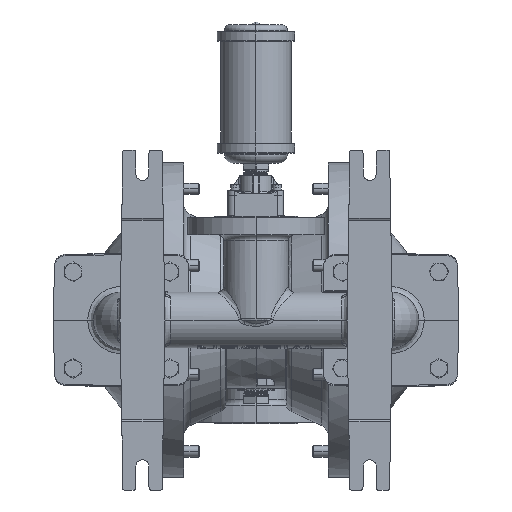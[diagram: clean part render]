
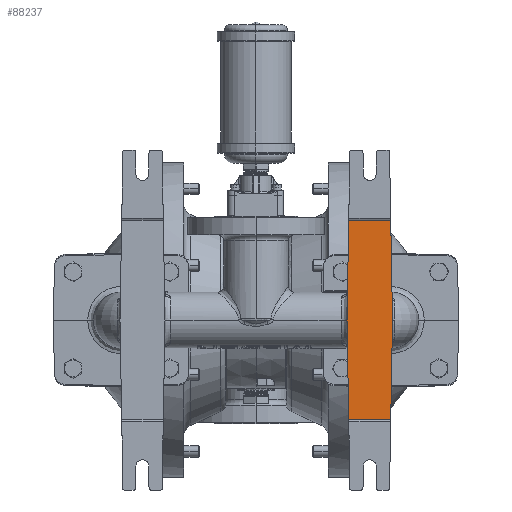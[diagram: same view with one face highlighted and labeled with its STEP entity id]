
A CAD part, front view. The second image highlights one B-rep face of the part: STEP entity #88237.
In plain terms, the highlighted planar face has unit normal (0, -1, 0).
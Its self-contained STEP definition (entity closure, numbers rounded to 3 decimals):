
#3984 = DIRECTION ( 'NONE',  ( 0.017, 0., 1. ) ) ;
#5110 = EDGE_CURVE ( 'NONE', #107189, #288525, #96053, .T. ) ;
#7857 = LINE ( 'NONE', #81147, #157879 ) ;
#9067 = ORIENTED_EDGE ( 'NONE', *, *, #24592, .T. ) ;
#19650 = DIRECTION ( 'NONE',  ( -0.017, 0., -1. ) ) ;
#24592 = EDGE_CURVE ( 'NONE', #38722, #121978, #7857, .T. ) ;
#25632 = CARTESIAN_POINT ( 'NONE',  ( 5.924, -15.355, -4.38 ) ) ;
#28110 = CARTESIAN_POINT ( 'NONE',  ( 5.924, -15.355, 4.38 ) ) ;
#28699 = DIRECTION ( 'NONE',  ( -1., 0., 0. ) ) ;
#38722 = VERTEX_POINT ( 'NONE', #188910 ) ;
#41240 = ORIENTED_EDGE ( 'NONE', *, *, #187351, .T. ) ;
#47326 = EDGE_CURVE ( 'NONE', #38722, #288525, #145936, .T. ) ;
#48251 = AXIS2_PLACEMENT_3D ( 'NONE', #262692, #48938, #75401 ) ;
#48938 = DIRECTION ( 'NONE',  ( 0., 1., 0. ) ) ;
#50050 = VECTOR ( 'NONE', #267644, 39.37 ) ;
#70385 = ORIENTED_EDGE ( 'NONE', *, *, #47326, .F. ) ;
#73872 = PLANE ( 'NONE',  #48251 ) ;
#75401 = DIRECTION ( 'NONE',  ( 1., 0., 0. ) ) ;
#81147 = CARTESIAN_POINT ( 'NONE',  ( 4., -15.355, 0. ) ) ;
#83707 = EDGE_CURVE ( 'NONE', #280101, #121978, #268962, .T. ) ;
#88237 = ADVANCED_FACE ( 'NONE', ( #218985 ), #73872, .F. ) ;
#89889 = CARTESIAN_POINT ( 'NONE',  ( 6., -15.355, 0. ) ) ;
#96053 = LINE ( 'NONE', #191252, #50050 ) ;
#107189 = VERTEX_POINT ( 'NONE', #28110 ) ;
#109386 = LINE ( 'NONE', #249846, #185323 ) ;
#110406 = VERTEX_POINT ( 'NONE', #243139 ) ;
#121978 = VERTEX_POINT ( 'NONE', #164426 ) ;
#137166 = CARTESIAN_POINT ( 'NONE',  ( 4.076, -15.355, 4.38 ) ) ;
#138193 = LINE ( 'NONE', #89889, #266245 ) ;
#145936 = LINE ( 'NONE', #241122, #294530 ) ;
#150002 = ORIENTED_EDGE ( 'NONE', *, *, #5110, .T. ) ;
#157879 = VECTOR ( 'NONE', #243517, 39.37 ) ;
#164426 = CARTESIAN_POINT ( 'NONE',  ( 4.076, -15.355, -4.38 ) ) ;
#171106 = EDGE_LOOP ( 'NONE', ( #278072, #41240, #150002, #70385, #9067, #305960 ) ) ;
#185323 = VECTOR ( 'NONE', #277888, 39.37 ) ;
#187351 = EDGE_CURVE ( 'NONE', #110406, #107189, #109386, .T. ) ;
#188910 = CARTESIAN_POINT ( 'NONE',  ( 4., -15.355, 0. ) ) ;
#191252 = CARTESIAN_POINT ( 'NONE',  ( 5.924, -15.355, 4.38 ) ) ;
#204831 = VECTOR ( 'NONE', #28699, 39.37 ) ;
#218985 = FACE_OUTER_BOUND ( 'NONE', #171106, .T. ) ;
#241122 = CARTESIAN_POINT ( 'NONE',  ( 4., -15.355, 0. ) ) ;
#243139 = CARTESIAN_POINT ( 'NONE',  ( 6., -15.355, 0. ) ) ;
#243517 = DIRECTION ( 'NONE',  ( 0.017, 0., -1. ) ) ;
#249846 = CARTESIAN_POINT ( 'NONE',  ( 6., -15.355, 0. ) ) ;
#262692 = CARTESIAN_POINT ( 'NONE',  ( -6., -15.355, -4.47 ) ) ;
#266245 = VECTOR ( 'NONE', #19650, 39.37 ) ;
#267644 = DIRECTION ( 'NONE',  ( -1., 0., 0. ) ) ;
#268962 = LINE ( 'NONE', #25632, #204831 ) ;
#269681 = CARTESIAN_POINT ( 'NONE',  ( 5.924, -15.355, -4.38 ) ) ;
#275176 = EDGE_CURVE ( 'NONE', #110406, #280101, #138193, .T. ) ;
#277888 = DIRECTION ( 'NONE',  ( -0.017, 0., 1. ) ) ;
#278072 = ORIENTED_EDGE ( 'NONE', *, *, #275176, .F. ) ;
#280101 = VERTEX_POINT ( 'NONE', #269681 ) ;
#288525 = VERTEX_POINT ( 'NONE', #137166 ) ;
#294530 = VECTOR ( 'NONE', #3984, 39.37 ) ;
#305960 = ORIENTED_EDGE ( 'NONE', *, *, #83707, .F. ) ;
